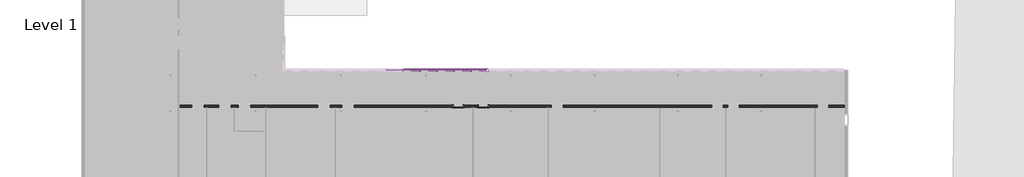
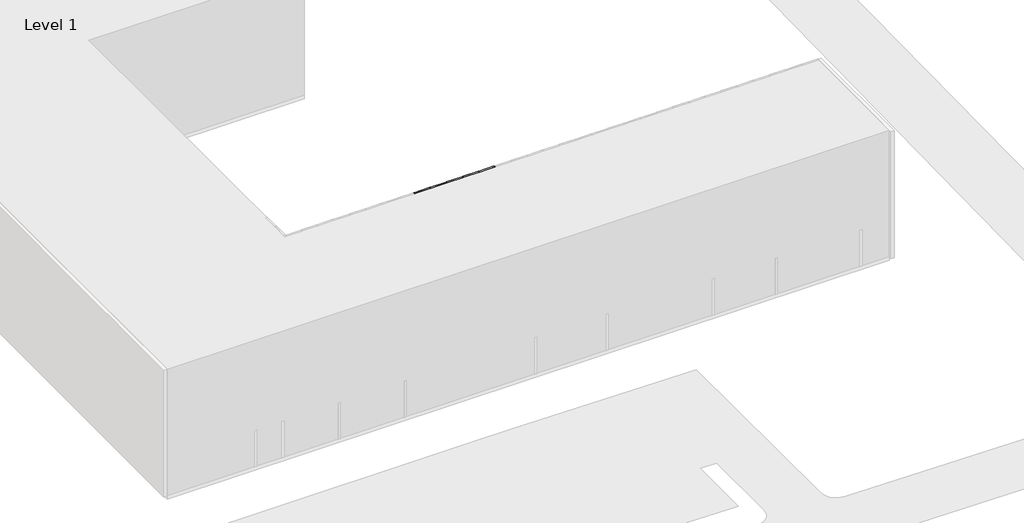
# One storey, part 5 of 18: 71 members, 36 plates, 2 doors, 1 wall.
"""IFC4 building model written with IfcOpenShell, lengths in millimetres."""

from ifc_helpers import new_model, si_unit, origin, place, context, project, spatial, faceted_brep, transform, mapped, element, save
from components import door_0915mm_x_2134mm_2aa27b83, door_0915mm_x_2134mm_3fa07aa3, rectangular_mullion_50mm_x_150mm_5f185edf, rectangular_mullion_50mm_x_150mm_e13fe9f0, rectangular_mullion_50mm_x_150mm_bbc1c4ea, rectangular_mullion_50mm_x_150mm_36202a7c, rectangular_mullion_50mm_x_150mm_84717ec5, system_panel_glazed_65478968, system_panel_glazed_4c130a31, system_panel_solid_368a6b70, system_panel_solid_ece33ae8

model = new_model("IFC4")

# Units and contexts
model_context = context("Model", 3, world=origin())
ifc_project = project(units=[si_unit("LENGTHUNIT", "METRE", prefix="MILLI")], contexts=[model_context])

# Site, building, storey
site = spatial("IfcSite", under=ifc_project)
building = spatial("IfcBuilding", under=site)
storey = spatial("IfcBuildingStorey", under=building, Name="Level 1", Elevation=0.0)

# Doors
placement = place(None, origin())
door_0915mm_x_2134mm_shape = door_0915mm_x_2134mm_2aa27b83(model_context)
element("IfcDoor", 1, ObjectType="m-doors-hm-f1-a : 0915mm x 2134mm", at=placement, inside=storey, context=model_context, shape_type="MappedRepresentation", body=[
    mapped(door_0915mm_x_2134mm_shape, transform((24961.1968037, -15479.7006057, 0.0), x_axis=(-1.0, 0.0, 0.0), y_axis=(0.0, -1.0, 0.0), z_axis=(0.0, 0.0, 1.0))),
])
door_0915mm_x_2134mm_2_shape = door_0915mm_x_2134mm_3fa07aa3(model_context)
element("IfcDoor", 2, ObjectType="m-doors-hm-f1-a : 0915mm x 2134mm", at=placement, inside=storey, context=model_context, shape_type="MappedRepresentation", body=[
    mapped(door_0915mm_x_2134mm_2_shape, transform((22761.1968037, -15479.7006057, 0.0), x_axis=(1.0, 0.0, 0.0), y_axis=(0.0, 1.0, 0.0), z_axis=(0.0, 0.0, 1.0))),
])

# Members
rectangular_mullion_50mm_x_150mm_shape = rectangular_mullion_50mm_x_150mm_5f185edf(model_context)
element("IfcMember", 3, ObjectType="Rectangular Mullion : 50mm x 150mm", at=placement, inside=storey, context=model_context, shape_type="MappedRepresentation", body=[
    mapped(rectangular_mullion_50mm_x_150mm_shape, transform((25382.1797146, -12132.3615692, 12400.0), x_axis=(0.0, 0.0, 1.0), y_axis=(0.0, 1.0, 0.0), z_axis=(-1.0, 0.0, 0.0))),
])
element("IfcMember", 4, ObjectType="Rectangular Mullion : 50mm x 150mm", at=placement, inside=storey, context=model_context, shape_type="MappedRepresentation", body=[
    mapped(rectangular_mullion_50mm_x_150mm_shape, transform((23889.7064944, -12132.3615692, 12400.0), x_axis=(0.0, 0.0, 1.0), y_axis=(0.0, 1.0, 0.0), z_axis=(-1.0, 0.0, 0.0))),
])
element("IfcMember", 5, ObjectType="Rectangular Mullion : 50mm x 150mm", at=placement, inside=storey, context=model_context, shape_type="MappedRepresentation", body=[
    mapped(rectangular_mullion_50mm_x_150mm_shape, transform((22397.2332743, -12132.3615692, 12400.0), x_axis=(0.0, 0.0, 1.0), y_axis=(0.0, 1.0, 0.0), z_axis=(-1.0, 0.0, 0.0))),
])
element("IfcMember", 6, ObjectType="Rectangular Mullion : 50mm x 150mm", at=placement, inside=storey, context=model_context, shape_type="MappedRepresentation", body=[
    mapped(rectangular_mullion_50mm_x_150mm_shape, transform((20904.7600541, -12132.3615692, 12400.0), x_axis=(0.0, 0.0, 1.0), y_axis=(0.0, 1.0, 0.0), z_axis=(-1.0, 0.0, 0.0))),
])
element("IfcMember", 7, ObjectType="Rectangular Mullion : 50mm x 150mm", at=placement, inside=storey, context=model_context, shape_type="MappedRepresentation", body=[
    mapped(rectangular_mullion_50mm_x_150mm_shape, transform((19412.2868339, -12132.3615692, 12400.0), x_axis=(0.0, 0.0, 1.0), y_axis=(0.0, 1.0, 0.0), z_axis=(-1.0, 0.0, 0.0))),
])
element("IfcMember", 8, ObjectType="Rectangular Mullion : 50mm x 150mm", at=placement, inside=storey, context=model_context, shape_type="MappedRepresentation", body=[
    mapped(rectangular_mullion_50mm_x_150mm_shape, transform((25332.1797146, -12132.3615692, 0.0), x_axis=(0.0, 0.0, -1.0), y_axis=(0.0, 1.0, 0.0), z_axis=(1.0, 0.0, 0.0))),
])
element("IfcMember", 9, ObjectType="Rectangular Mullion : 50mm x 150mm", at=placement, inside=storey, context=model_context, shape_type="MappedRepresentation", body=[
    mapped(rectangular_mullion_50mm_x_150mm_shape, transform((23839.7064944, -12132.3615692, 0.0), x_axis=(0.0, 0.0, -1.0), y_axis=(0.0, 1.0, 0.0), z_axis=(1.0, 0.0, 0.0))),
])
element("IfcMember", 10, ObjectType="Rectangular Mullion : 50mm x 150mm", at=placement, inside=storey, context=model_context, shape_type="MappedRepresentation", body=[
    mapped(rectangular_mullion_50mm_x_150mm_shape, transform((22347.2332743, -12132.3615692, 0.0), x_axis=(0.0, 0.0, -1.0), y_axis=(0.0, 1.0, 0.0), z_axis=(1.0, 0.0, 0.0))),
])
element("IfcMember", 11, ObjectType="Rectangular Mullion : 50mm x 150mm", at=placement, inside=storey, context=model_context, shape_type="MappedRepresentation", body=[
    mapped(rectangular_mullion_50mm_x_150mm_shape, transform((20854.7600541, -12132.3615692, 0.0), x_axis=(0.0, 0.0, -1.0), y_axis=(0.0, 1.0, 0.0), z_axis=(1.0, 0.0, 0.0))),
])
element("IfcMember", 12, ObjectType="Rectangular Mullion : 50mm x 150mm", at=placement, inside=storey, context=model_context, shape_type="MappedRepresentation", body=[
    mapped(rectangular_mullion_50mm_x_150mm_shape, transform((19362.2868339, -12132.3615692, 0.0), x_axis=(0.0, 0.0, -1.0), y_axis=(0.0, 1.0, 0.0), z_axis=(1.0, 0.0, 0.0))),
])
rectangular_mullion_50mm_x_150mm_2_shape = rectangular_mullion_50mm_x_150mm_e13fe9f0(model_context)
element("IfcMember", 13, ObjectType="Rectangular Mullion : 50mm x 150mm", at=placement, inside=storey, context=model_context, shape_type="MappedRepresentation", body=[
    mapped(rectangular_mullion_50mm_x_150mm_2_shape, transform((25382.1797146, -12132.3615692, 3800.0), x_axis=(0.0, 0.0, 1.0), y_axis=(0.0, 1.0, 0.0), z_axis=(-1.0, 0.0, 0.0))),
])
element("IfcMember", 14, ObjectType="Rectangular Mullion : 50mm x 150mm", at=placement, inside=storey, context=model_context, shape_type="MappedRepresentation", body=[
    mapped(rectangular_mullion_50mm_x_150mm_2_shape, transform((23889.7064944, -12132.3615692, 3800.0), x_axis=(0.0, 0.0, 1.0), y_axis=(0.0, 1.0, 0.0), z_axis=(-1.0, 0.0, 0.0))),
])
element("IfcMember", 15, ObjectType="Rectangular Mullion : 50mm x 150mm", at=placement, inside=storey, context=model_context, shape_type="MappedRepresentation", body=[
    mapped(rectangular_mullion_50mm_x_150mm_2_shape, transform((22397.2332743, -12132.3615692, 3800.0), x_axis=(0.0, 0.0, 1.0), y_axis=(0.0, 1.0, 0.0), z_axis=(-1.0, 0.0, 0.0))),
])
element("IfcMember", 16, ObjectType="Rectangular Mullion : 50mm x 150mm", at=placement, inside=storey, context=model_context, shape_type="MappedRepresentation", body=[
    mapped(rectangular_mullion_50mm_x_150mm_2_shape, transform((20904.7600541, -12132.3615692, 3800.0), x_axis=(0.0, 0.0, 1.0), y_axis=(0.0, 1.0, 0.0), z_axis=(-1.0, 0.0, 0.0))),
])
element("IfcMember", 17, ObjectType="Rectangular Mullion : 50mm x 150mm", at=placement, inside=storey, context=model_context, shape_type="MappedRepresentation", body=[
    mapped(rectangular_mullion_50mm_x_150mm_2_shape, transform((19412.2868339, -12132.3615692, 3800.0), x_axis=(0.0, 0.0, 1.0), y_axis=(0.0, 1.0, 0.0), z_axis=(-1.0, 0.0, 0.0))),
])
element("IfcMember", 18, ObjectType="Rectangular Mullion : 50mm x 150mm", at=placement, inside=storey, context=model_context, shape_type="MappedRepresentation", body=[
    mapped(rectangular_mullion_50mm_x_150mm_2_shape, transform((25382.1797146, -12132.3615692, 7600.0), x_axis=(0.0, 0.0, 1.0), y_axis=(0.0, 1.0, 0.0), z_axis=(-1.0, 0.0, 0.0))),
])
element("IfcMember", 19, ObjectType="Rectangular Mullion : 50mm x 150mm", at=placement, inside=storey, context=model_context, shape_type="MappedRepresentation", body=[
    mapped(rectangular_mullion_50mm_x_150mm_2_shape, transform((23889.7064944, -12132.3615692, 7600.0), x_axis=(0.0, 0.0, 1.0), y_axis=(0.0, 1.0, 0.0), z_axis=(-1.0, 0.0, 0.0))),
])
element("IfcMember", 20, ObjectType="Rectangular Mullion : 50mm x 150mm", at=placement, inside=storey, context=model_context, shape_type="MappedRepresentation", body=[
    mapped(rectangular_mullion_50mm_x_150mm_2_shape, transform((22397.2332743, -12132.3615692, 7600.0), x_axis=(0.0, 0.0, 1.0), y_axis=(0.0, 1.0, 0.0), z_axis=(-1.0, 0.0, 0.0))),
])
element("IfcMember", 21, ObjectType="Rectangular Mullion : 50mm x 150mm", at=placement, inside=storey, context=model_context, shape_type="MappedRepresentation", body=[
    mapped(rectangular_mullion_50mm_x_150mm_2_shape, transform((20904.7600541, -12132.3615692, 7600.0), x_axis=(0.0, 0.0, 1.0), y_axis=(0.0, 1.0, 0.0), z_axis=(-1.0, 0.0, 0.0))),
])
element("IfcMember", 22, ObjectType="Rectangular Mullion : 50mm x 150mm", at=placement, inside=storey, context=model_context, shape_type="MappedRepresentation", body=[
    mapped(rectangular_mullion_50mm_x_150mm_2_shape, transform((19412.2868339, -12132.3615692, 7600.0), x_axis=(0.0, 0.0, 1.0), y_axis=(0.0, 1.0, 0.0), z_axis=(-1.0, 0.0, 0.0))),
])
element("IfcMember", 23, ObjectType="Rectangular Mullion : 50mm x 150mm", at=placement, inside=storey, context=model_context, shape_type="MappedRepresentation", body=[
    mapped(rectangular_mullion_50mm_x_150mm_2_shape, transform((25382.1797146, -12132.3615692, 11400.0), x_axis=(0.0, 0.0, 1.0), y_axis=(0.0, 1.0, 0.0), z_axis=(-1.0, 0.0, 0.0))),
])
element("IfcMember", 24, ObjectType="Rectangular Mullion : 50mm x 150mm", at=placement, inside=storey, context=model_context, shape_type="MappedRepresentation", body=[
    mapped(rectangular_mullion_50mm_x_150mm_2_shape, transform((23889.7064944, -12132.3615692, 11400.0), x_axis=(0.0, 0.0, 1.0), y_axis=(0.0, 1.0, 0.0), z_axis=(-1.0, 0.0, 0.0))),
])
element("IfcMember", 25, ObjectType="Rectangular Mullion : 50mm x 150mm", at=placement, inside=storey, context=model_context, shape_type="MappedRepresentation", body=[
    mapped(rectangular_mullion_50mm_x_150mm_2_shape, transform((22397.2332743, -12132.3615692, 11400.0), x_axis=(0.0, 0.0, 1.0), y_axis=(0.0, 1.0, 0.0), z_axis=(-1.0, 0.0, 0.0))),
])
element("IfcMember", 26, ObjectType="Rectangular Mullion : 50mm x 150mm", at=placement, inside=storey, context=model_context, shape_type="MappedRepresentation", body=[
    mapped(rectangular_mullion_50mm_x_150mm_2_shape, transform((20904.7600541, -12132.3615692, 11400.0), x_axis=(0.0, 0.0, 1.0), y_axis=(0.0, 1.0, 0.0), z_axis=(-1.0, 0.0, 0.0))),
])
element("IfcMember", 27, ObjectType="Rectangular Mullion : 50mm x 150mm", at=placement, inside=storey, context=model_context, shape_type="MappedRepresentation", body=[
    mapped(rectangular_mullion_50mm_x_150mm_2_shape, transform((19412.2868339, -12132.3615692, 11400.0), x_axis=(0.0, 0.0, 1.0), y_axis=(0.0, 1.0, 0.0), z_axis=(-1.0, 0.0, 0.0))),
])
element("IfcMember", 28, ObjectType="Rectangular Mullion : 50mm x 150mm", at=placement, inside=storey, context=model_context, shape_type="MappedRepresentation", body=[
    mapped(rectangular_mullion_50mm_x_150mm_2_shape, transform((23889.7064944, -12132.3615692, 2440.0), x_axis=(0.0, 0.0, 1.0), y_axis=(0.0, 1.0, 0.0), z_axis=(-1.0, 0.0, 0.0))),
])
element("IfcMember", 29, ObjectType="Rectangular Mullion : 50mm x 150mm", at=placement, inside=storey, context=model_context, shape_type="MappedRepresentation", body=[
    mapped(rectangular_mullion_50mm_x_150mm_2_shape, transform((22397.2332743, -12132.3615692, 2440.0), x_axis=(0.0, 0.0, 1.0), y_axis=(0.0, 1.0, 0.0), z_axis=(-1.0, 0.0, 0.0))),
])
element("IfcMember", 30, ObjectType="Rectangular Mullion : 50mm x 150mm", at=placement, inside=storey, context=model_context, shape_type="MappedRepresentation", body=[
    mapped(rectangular_mullion_50mm_x_150mm_2_shape, transform((20904.7600541, -12132.3615692, 2440.0), x_axis=(0.0, 0.0, 1.0), y_axis=(0.0, 1.0, 0.0), z_axis=(-1.0, 0.0, 0.0))),
])
element("IfcMember", 31, ObjectType="Rectangular Mullion : 50mm x 150mm", at=placement, inside=storey, context=model_context, shape_type="MappedRepresentation", body=[
    mapped(rectangular_mullion_50mm_x_150mm_2_shape, transform((19412.2868339, -12132.3615692, 2440.0), x_axis=(0.0, 0.0, 1.0), y_axis=(0.0, 1.0, 0.0), z_axis=(-1.0, 0.0, 0.0))),
])
element("IfcMember", 32, ObjectType="Rectangular Mullion : 50mm x 150mm", at=placement, inside=storey, context=model_context, shape_type="MappedRepresentation", body=[
    mapped(rectangular_mullion_50mm_x_150mm_2_shape, transform((23889.7064944, -12132.3615692, 6240.0), x_axis=(0.0, 0.0, 1.0), y_axis=(0.0, 1.0, 0.0), z_axis=(-1.0, 0.0, 0.0))),
])
element("IfcMember", 33, ObjectType="Rectangular Mullion : 50mm x 150mm", at=placement, inside=storey, context=model_context, shape_type="MappedRepresentation", body=[
    mapped(rectangular_mullion_50mm_x_150mm_2_shape, transform((22397.2332743, -12132.3615692, 6240.0), x_axis=(0.0, 0.0, 1.0), y_axis=(0.0, 1.0, 0.0), z_axis=(-1.0, 0.0, 0.0))),
])
element("IfcMember", 34, ObjectType="Rectangular Mullion : 50mm x 150mm", at=placement, inside=storey, context=model_context, shape_type="MappedRepresentation", body=[
    mapped(rectangular_mullion_50mm_x_150mm_2_shape, transform((20904.7600541, -12132.3615692, 6240.0), x_axis=(0.0, 0.0, 1.0), y_axis=(0.0, 1.0, 0.0), z_axis=(-1.0, 0.0, 0.0))),
])
element("IfcMember", 35, ObjectType="Rectangular Mullion : 50mm x 150mm", at=placement, inside=storey, context=model_context, shape_type="MappedRepresentation", body=[
    mapped(rectangular_mullion_50mm_x_150mm_2_shape, transform((19412.2868339, -12132.3615692, 6240.0), x_axis=(0.0, 0.0, 1.0), y_axis=(0.0, 1.0, 0.0), z_axis=(-1.0, 0.0, 0.0))),
])
element("IfcMember", 36, ObjectType="Rectangular Mullion : 50mm x 150mm", at=placement, inside=storey, context=model_context, shape_type="MappedRepresentation", body=[
    mapped(rectangular_mullion_50mm_x_150mm_2_shape, transform((23889.7064944, -12132.3615692, 10040.0), x_axis=(0.0, 0.0, 1.0), y_axis=(0.0, 1.0, 0.0), z_axis=(-1.0, 0.0, 0.0))),
])
element("IfcMember", 37, ObjectType="Rectangular Mullion : 50mm x 150mm", at=placement, inside=storey, context=model_context, shape_type="MappedRepresentation", body=[
    mapped(rectangular_mullion_50mm_x_150mm_2_shape, transform((22397.2332743, -12132.3615692, 10040.0), x_axis=(0.0, 0.0, 1.0), y_axis=(0.0, 1.0, 0.0), z_axis=(-1.0, 0.0, 0.0))),
])
element("IfcMember", 38, ObjectType="Rectangular Mullion : 50mm x 150mm", at=placement, inside=storey, context=model_context, shape_type="MappedRepresentation", body=[
    mapped(rectangular_mullion_50mm_x_150mm_2_shape, transform((20904.7600541, -12132.3615692, 10040.0), x_axis=(0.0, 0.0, 1.0), y_axis=(0.0, 1.0, 0.0), z_axis=(-1.0, 0.0, 0.0))),
])
element("IfcMember", 39, ObjectType="Rectangular Mullion : 50mm x 150mm", at=placement, inside=storey, context=model_context, shape_type="MappedRepresentation", body=[
    mapped(rectangular_mullion_50mm_x_150mm_2_shape, transform((19412.2868339, -12132.3615692, 10040.0), x_axis=(0.0, 0.0, 1.0), y_axis=(0.0, 1.0, 0.0), z_axis=(-1.0, 0.0, 0.0))),
])
element("IfcMember", 40, ObjectType="Rectangular Mullion : 50mm x 150mm", at=placement, inside=storey, context=model_context, shape_type="MappedRepresentation", body=[
    mapped(rectangular_mullion_50mm_x_150mm_2_shape, transform((17919.8136138, -12132.3615692, 10040.0), x_axis=(0.0, 0.0, 1.0), y_axis=(0.0, 1.0, 0.0), z_axis=(-1.0, 0.0, 0.0))),
])
rectangular_mullion_50mm_x_150mm_3_shape = rectangular_mullion_50mm_x_150mm_bbc1c4ea(model_context)
element("IfcMember", 41, ObjectType="Rectangular Mullion : 50mm x 150mm", at=placement, inside=storey, context=model_context, shape_type="MappedRepresentation", body=[
    mapped(rectangular_mullion_50mm_x_150mm_3_shape, transform((25357.1797146, -12132.3615692, 11400.0), x_axis=(-1.0, 0.0, 0.0), y_axis=(0.0, 1.0, 0.0), z_axis=(0.0, 0.0, -1.0))),
])
element("IfcMember", 42, ObjectType="Rectangular Mullion : 50mm x 150mm", at=placement, inside=storey, context=model_context, shape_type="MappedRepresentation", body=[
    mapped(rectangular_mullion_50mm_x_150mm_3_shape, transform((23864.7064944, -12132.3615692, 11400.0), x_axis=(-1.0, 0.0, 0.0), y_axis=(0.0, 1.0, 0.0), z_axis=(0.0, 0.0, -1.0))),
])
element("IfcMember", 43, ObjectType="Rectangular Mullion : 50mm x 150mm", at=placement, inside=storey, context=model_context, shape_type="MappedRepresentation", body=[
    mapped(rectangular_mullion_50mm_x_150mm_3_shape, transform((22372.2332743, -12132.3615692, 11400.0), x_axis=(-1.0, 0.0, 0.0), y_axis=(0.0, 1.0, 0.0), z_axis=(0.0, 0.0, -1.0))),
])
element("IfcMember", 44, ObjectType="Rectangular Mullion : 50mm x 150mm", at=placement, inside=storey, context=model_context, shape_type="MappedRepresentation", body=[
    mapped(rectangular_mullion_50mm_x_150mm_3_shape, transform((20879.7600541, -12132.3615692, 11400.0), x_axis=(-1.0, 0.0, 0.0), y_axis=(0.0, 1.0, 0.0), z_axis=(0.0, 0.0, -1.0))),
])
element("IfcMember", 45, ObjectType="Rectangular Mullion : 50mm x 150mm", at=placement, inside=storey, context=model_context, shape_type="MappedRepresentation", body=[
    mapped(rectangular_mullion_50mm_x_150mm_3_shape, transform((19387.2868339, -12132.3615692, 11400.0), x_axis=(-1.0, 0.0, 0.0), y_axis=(0.0, 1.0, 0.0), z_axis=(0.0, 0.0, -1.0))),
])
rectangular_mullion_50mm_x_150mm_4_shape = rectangular_mullion_50mm_x_150mm_36202a7c(model_context)
element("IfcMember", 46, ObjectType="Rectangular Mullion : 50mm x 150mm", at=placement, inside=storey, context=model_context, shape_type="MappedRepresentation", body=[
    mapped(rectangular_mullion_50mm_x_150mm_4_shape, transform((25357.1797146, -12132.3615692, 0.0), x_axis=(-1.0, 0.0, 0.0), y_axis=(0.0, 1.0, 0.0), z_axis=(0.0, 0.0, -1.0))),
])
element("IfcMember", 47, ObjectType="Rectangular Mullion : 50mm x 150mm", at=placement, inside=storey, context=model_context, shape_type="MappedRepresentation", body=[
    mapped(rectangular_mullion_50mm_x_150mm_4_shape, transform((23864.7064944, -12132.3615692, 0.0), x_axis=(-1.0, 0.0, 0.0), y_axis=(0.0, 1.0, 0.0), z_axis=(0.0, 0.0, -1.0))),
])
element("IfcMember", 48, ObjectType="Rectangular Mullion : 50mm x 150mm", at=placement, inside=storey, context=model_context, shape_type="MappedRepresentation", body=[
    mapped(rectangular_mullion_50mm_x_150mm_4_shape, transform((22372.2332743, -12132.3615692, 0.0), x_axis=(-1.0, 0.0, 0.0), y_axis=(0.0, 1.0, 0.0), z_axis=(0.0, 0.0, -1.0))),
])
element("IfcMember", 49, ObjectType="Rectangular Mullion : 50mm x 150mm", at=placement, inside=storey, context=model_context, shape_type="MappedRepresentation", body=[
    mapped(rectangular_mullion_50mm_x_150mm_4_shape, transform((20879.7600541, -12132.3615692, 0.0), x_axis=(-1.0, 0.0, 0.0), y_axis=(0.0, 1.0, 0.0), z_axis=(0.0, 0.0, -1.0))),
])
element("IfcMember", 50, ObjectType="Rectangular Mullion : 50mm x 150mm", at=placement, inside=storey, context=model_context, shape_type="MappedRepresentation", body=[
    mapped(rectangular_mullion_50mm_x_150mm_4_shape, transform((19387.2868339, -12132.3615692, 0.0), x_axis=(-1.0, 0.0, 0.0), y_axis=(0.0, 1.0, 0.0), z_axis=(0.0, 0.0, -1.0))),
])
rectangular_mullion_50mm_x_150mm_5_shape = rectangular_mullion_50mm_x_150mm_84717ec5(model_context)
element("IfcMember", 51, ObjectType="Rectangular Mullion : 50mm x 150mm", at=placement, inside=storey, context=model_context, shape_type="MappedRepresentation", body=[
    mapped(rectangular_mullion_50mm_x_150mm_5_shape, transform((23864.7064944, -12132.3615692, 2440.0), x_axis=(-1.0, 0.0, 0.0), y_axis=(0.0, 1.0, 0.0), z_axis=(0.0, 0.0, -1.0))),
])
element("IfcMember", 52, ObjectType="Rectangular Mullion : 50mm x 150mm", at=placement, inside=storey, context=model_context, shape_type="MappedRepresentation", body=[
    mapped(rectangular_mullion_50mm_x_150mm_5_shape, transform((22372.2332743, -12132.3615692, 2440.0), x_axis=(-1.0, 0.0, 0.0), y_axis=(0.0, 1.0, 0.0), z_axis=(0.0, 0.0, -1.0))),
])
element("IfcMember", 53, ObjectType="Rectangular Mullion : 50mm x 150mm", at=placement, inside=storey, context=model_context, shape_type="MappedRepresentation", body=[
    mapped(rectangular_mullion_50mm_x_150mm_5_shape, transform((20879.7600541, -12132.3615692, 2440.0), x_axis=(-1.0, 0.0, 0.0), y_axis=(0.0, 1.0, 0.0), z_axis=(0.0, 0.0, -1.0))),
])
element("IfcMember", 54, ObjectType="Rectangular Mullion : 50mm x 150mm", at=placement, inside=storey, context=model_context, shape_type="MappedRepresentation", body=[
    mapped(rectangular_mullion_50mm_x_150mm_5_shape, transform((19387.2868339, -12132.3615692, 2440.0), x_axis=(-1.0, 0.0, 0.0), y_axis=(0.0, 1.0, 0.0), z_axis=(0.0, 0.0, -1.0))),
])
element("IfcMember", 55, ObjectType="Rectangular Mullion : 50mm x 150mm", at=placement, inside=storey, context=model_context, shape_type="MappedRepresentation", body=[
    mapped(rectangular_mullion_50mm_x_150mm_5_shape, transform((23864.7064944, -12132.3615692, 6240.0), x_axis=(-1.0, 0.0, 0.0), y_axis=(0.0, 1.0, 0.0), z_axis=(0.0, 0.0, -1.0))),
])
element("IfcMember", 56, ObjectType="Rectangular Mullion : 50mm x 150mm", at=placement, inside=storey, context=model_context, shape_type="MappedRepresentation", body=[
    mapped(rectangular_mullion_50mm_x_150mm_5_shape, transform((22372.2332743, -12132.3615692, 6240.0), x_axis=(-1.0, 0.0, 0.0), y_axis=(0.0, 1.0, 0.0), z_axis=(0.0, 0.0, -1.0))),
])
element("IfcMember", 57, ObjectType="Rectangular Mullion : 50mm x 150mm", at=placement, inside=storey, context=model_context, shape_type="MappedRepresentation", body=[
    mapped(rectangular_mullion_50mm_x_150mm_5_shape, transform((20879.7600541, -12132.3615692, 6240.0), x_axis=(-1.0, 0.0, 0.0), y_axis=(0.0, 1.0, 0.0), z_axis=(0.0, 0.0, -1.0))),
])
element("IfcMember", 58, ObjectType="Rectangular Mullion : 50mm x 150mm", at=placement, inside=storey, context=model_context, shape_type="MappedRepresentation", body=[
    mapped(rectangular_mullion_50mm_x_150mm_5_shape, transform((19387.2868339, -12132.3615692, 6240.0), x_axis=(-1.0, 0.0, 0.0), y_axis=(0.0, 1.0, 0.0), z_axis=(0.0, 0.0, -1.0))),
])
element("IfcMember", 59, ObjectType="Rectangular Mullion : 50mm x 150mm", at=placement, inside=storey, context=model_context, shape_type="MappedRepresentation", body=[
    mapped(rectangular_mullion_50mm_x_150mm_5_shape, transform((23864.7064944, -12132.3615692, 10040.0), x_axis=(-1.0, 0.0, 0.0), y_axis=(0.0, 1.0, 0.0), z_axis=(0.0, 0.0, -1.0))),
])
element("IfcMember", 60, ObjectType="Rectangular Mullion : 50mm x 150mm", at=placement, inside=storey, context=model_context, shape_type="MappedRepresentation", body=[
    mapped(rectangular_mullion_50mm_x_150mm_5_shape, transform((22372.2332743, -12132.3615692, 10040.0), x_axis=(-1.0, 0.0, 0.0), y_axis=(0.0, 1.0, 0.0), z_axis=(0.0, 0.0, -1.0))),
])
element("IfcMember", 61, ObjectType="Rectangular Mullion : 50mm x 150mm", at=placement, inside=storey, context=model_context, shape_type="MappedRepresentation", body=[
    mapped(rectangular_mullion_50mm_x_150mm_5_shape, transform((20879.7600541, -12132.3615692, 10040.0), x_axis=(-1.0, 0.0, 0.0), y_axis=(0.0, 1.0, 0.0), z_axis=(0.0, 0.0, -1.0))),
])
element("IfcMember", 62, ObjectType="Rectangular Mullion : 50mm x 150mm", at=placement, inside=storey, context=model_context, shape_type="MappedRepresentation", body=[
    mapped(rectangular_mullion_50mm_x_150mm_5_shape, transform((19387.2868339, -12132.3615692, 10040.0), x_axis=(-1.0, 0.0, 0.0), y_axis=(0.0, 1.0, 0.0), z_axis=(0.0, 0.0, -1.0))),
])
element("IfcMember", 63, ObjectType="Rectangular Mullion : 50mm x 150mm", at=placement, inside=storey, context=model_context, shape_type="MappedRepresentation", body=[
    mapped(rectangular_mullion_50mm_x_150mm_5_shape, transform((17894.8136138, -12132.3615692, 10040.0), x_axis=(-1.0, 0.0, 0.0), y_axis=(0.0, 1.0, 0.0), z_axis=(0.0, 0.0, -1.0))),
])
element("IfcMember", 64, ObjectType="Rectangular Mullion : 50mm x 150mm", at=placement, inside=storey, context=model_context, shape_type="MappedRepresentation", body=[
    mapped(rectangular_mullion_50mm_x_150mm_4_shape, transform((25357.1797146, -12132.3615692, 3800.0), x_axis=(-1.0, 0.0, 0.0), y_axis=(0.0, 1.0, 0.0), z_axis=(0.0, 0.0, -1.0))),
])
element("IfcMember", 65, ObjectType="Rectangular Mullion : 50mm x 150mm", at=placement, inside=storey, context=model_context, shape_type="MappedRepresentation", body=[
    mapped(rectangular_mullion_50mm_x_150mm_4_shape, transform((23864.7064944, -12132.3615692, 3800.0), x_axis=(-1.0, 0.0, 0.0), y_axis=(0.0, 1.0, 0.0), z_axis=(0.0, 0.0, -1.0))),
])
element("IfcMember", 66, ObjectType="Rectangular Mullion : 50mm x 150mm", at=placement, inside=storey, context=model_context, shape_type="MappedRepresentation", body=[
    mapped(rectangular_mullion_50mm_x_150mm_4_shape, transform((22372.2332743, -12132.3615692, 3800.0), x_axis=(-1.0, 0.0, 0.0), y_axis=(0.0, 1.0, 0.0), z_axis=(0.0, 0.0, -1.0))),
])
element("IfcMember", 67, ObjectType="Rectangular Mullion : 50mm x 150mm", at=placement, inside=storey, context=model_context, shape_type="MappedRepresentation", body=[
    mapped(rectangular_mullion_50mm_x_150mm_4_shape, transform((20879.7600541, -12132.3615692, 3800.0), x_axis=(-1.0, 0.0, 0.0), y_axis=(0.0, 1.0, 0.0), z_axis=(0.0, 0.0, -1.0))),
])
element("IfcMember", 68, ObjectType="Rectangular Mullion : 50mm x 150mm", at=placement, inside=storey, context=model_context, shape_type="MappedRepresentation", body=[
    mapped(rectangular_mullion_50mm_x_150mm_4_shape, transform((19387.2868339, -12132.3615692, 3800.0), x_axis=(-1.0, 0.0, 0.0), y_axis=(0.0, 1.0, 0.0), z_axis=(0.0, 0.0, -1.0))),
])
element("IfcMember", 69, ObjectType="Rectangular Mullion : 50mm x 150mm", at=placement, inside=storey, context=model_context, shape_type="MappedRepresentation", body=[
    mapped(rectangular_mullion_50mm_x_150mm_4_shape, transform((25357.1797146, -12132.3615692, 7600.0), x_axis=(-1.0, 0.0, 0.0), y_axis=(0.0, 1.0, 0.0), z_axis=(0.0, 0.0, -1.0))),
])
element("IfcMember", 70, ObjectType="Rectangular Mullion : 50mm x 150mm", at=placement, inside=storey, context=model_context, shape_type="MappedRepresentation", body=[
    mapped(rectangular_mullion_50mm_x_150mm_4_shape, transform((23864.7064944, -12132.3615692, 7600.0), x_axis=(-1.0, 0.0, 0.0), y_axis=(0.0, 1.0, 0.0), z_axis=(0.0, 0.0, -1.0))),
])
element("IfcMember", 71, ObjectType="Rectangular Mullion : 50mm x 150mm", at=placement, inside=storey, context=model_context, shape_type="MappedRepresentation", body=[
    mapped(rectangular_mullion_50mm_x_150mm_4_shape, transform((22372.2332743, -12132.3615692, 7600.0), x_axis=(-1.0, 0.0, 0.0), y_axis=(0.0, 1.0, 0.0), z_axis=(0.0, 0.0, -1.0))),
])
element("IfcMember", 72, ObjectType="Rectangular Mullion : 50mm x 150mm", at=placement, inside=storey, context=model_context, shape_type="MappedRepresentation", body=[
    mapped(rectangular_mullion_50mm_x_150mm_4_shape, transform((20879.7600541, -12132.3615692, 7600.0), x_axis=(-1.0, 0.0, 0.0), y_axis=(0.0, 1.0, 0.0), z_axis=(0.0, 0.0, -1.0))),
])
element("IfcMember", 73, ObjectType="Rectangular Mullion : 50mm x 150mm", at=placement, inside=storey, context=model_context, shape_type="MappedRepresentation", body=[
    mapped(rectangular_mullion_50mm_x_150mm_4_shape, transform((19387.2868339, -12132.3615692, 7600.0), x_axis=(-1.0, 0.0, 0.0), y_axis=(0.0, 1.0, 0.0), z_axis=(0.0, 0.0, -1.0))),
])

# Plates
system_panel_glazed_shape = system_panel_glazed_65478968(model_context)
element("IfcPlate", 74, ObjectType="System Panel : Glazed", at=placement, inside=storey, context=model_context, shape_type="MappedRepresentation", body=[
    mapped(system_panel_glazed_shape, transform((24610.9431045, -12132.3615692, 50.0), x_axis=(-1.0, 0.0, 0.0), y_axis=(0.0, -1.0, 0.0), z_axis=(0.0, 0.0, 1.0))),
])
element("IfcPlate", 75, ObjectType="System Panel : Glazed", at=placement, inside=storey, context=model_context, shape_type="MappedRepresentation", body=[
    mapped(system_panel_glazed_shape, transform((23118.4698843, -12132.3615692, 50.0), x_axis=(-1.0, 0.0, 0.0), y_axis=(0.0, -1.0, 0.0), z_axis=(0.0, 0.0, 1.0))),
])
element("IfcPlate", 76, ObjectType="System Panel : Glazed", at=placement, inside=storey, context=model_context, shape_type="MappedRepresentation", body=[
    mapped(system_panel_glazed_shape, transform((21625.9966642, -12132.3615692, 50.0), x_axis=(-1.0, 0.0, 0.0), y_axis=(0.0, -1.0, 0.0), z_axis=(0.0, 0.0, 1.0))),
])
element("IfcPlate", 77, ObjectType="System Panel : Glazed", at=placement, inside=storey, context=model_context, shape_type="MappedRepresentation", body=[
    mapped(system_panel_glazed_shape, transform((20133.523444, -12132.3615692, 50.0), x_axis=(-1.0, 0.0, 0.0), y_axis=(0.0, -1.0, 0.0), z_axis=(0.0, 0.0, 1.0))),
])
element("IfcPlate", 78, ObjectType="System Panel : Glazed", at=placement, inside=storey, context=model_context, shape_type="MappedRepresentation", body=[
    mapped(system_panel_glazed_shape, transform((18641.0502239, -12132.3615692, 50.0), x_axis=(-1.0, 0.0, 0.0), y_axis=(0.0, -1.0, 0.0), z_axis=(0.0, 0.0, 1.0))),
])
system_panel_glazed_2_shape = system_panel_glazed_4c130a31(model_context)
element("IfcPlate", 79, ObjectType="System Panel : Glazed", at=placement, inside=storey, context=model_context, shape_type="MappedRepresentation", body=[
    mapped(system_panel_glazed_2_shape, transform((24610.9431045, -12132.3615692, 3825.0), x_axis=(-1.0, 0.0, 0.0), y_axis=(0.0, -1.0, 0.0), z_axis=(0.0, 0.0, 1.0))),
])
element("IfcPlate", 80, ObjectType="System Panel : Glazed", at=placement, inside=storey, context=model_context, shape_type="MappedRepresentation", body=[
    mapped(system_panel_glazed_2_shape, transform((23118.4698843, -12132.3615692, 3825.0), x_axis=(-1.0, 0.0, 0.0), y_axis=(0.0, -1.0, 0.0), z_axis=(0.0, 0.0, 1.0))),
])
element("IfcPlate", 81, ObjectType="System Panel : Glazed", at=placement, inside=storey, context=model_context, shape_type="MappedRepresentation", body=[
    mapped(system_panel_glazed_2_shape, transform((21625.9966642, -12132.3615692, 3825.0), x_axis=(-1.0, 0.0, 0.0), y_axis=(0.0, -1.0, 0.0), z_axis=(0.0, 0.0, 1.0))),
])
element("IfcPlate", 82, ObjectType="System Panel : Glazed", at=placement, inside=storey, context=model_context, shape_type="MappedRepresentation", body=[
    mapped(system_panel_glazed_2_shape, transform((20133.523444, -12132.3615692, 3825.0), x_axis=(-1.0, 0.0, 0.0), y_axis=(0.0, -1.0, 0.0), z_axis=(0.0, 0.0, 1.0))),
])
element("IfcPlate", 83, ObjectType="System Panel : Glazed", at=placement, inside=storey, context=model_context, shape_type="MappedRepresentation", body=[
    mapped(system_panel_glazed_2_shape, transform((18641.0502239, -12132.3615692, 3825.0), x_axis=(-1.0, 0.0, 0.0), y_axis=(0.0, -1.0, 0.0), z_axis=(0.0, 0.0, 1.0))),
])
element("IfcPlate", 84, ObjectType="System Panel : Glazed", at=placement, inside=storey, context=model_context, shape_type="MappedRepresentation", body=[
    mapped(system_panel_glazed_2_shape, transform((24610.9431045, -12132.3615692, 7625.0), x_axis=(-1.0, 0.0, 0.0), y_axis=(0.0, -1.0, 0.0), z_axis=(0.0, 0.0, 1.0))),
])
element("IfcPlate", 85, ObjectType="System Panel : Glazed", at=placement, inside=storey, context=model_context, shape_type="MappedRepresentation", body=[
    mapped(system_panel_glazed_2_shape, transform((23118.4698843, -12132.3615692, 7625.0), x_axis=(-1.0, 0.0, 0.0), y_axis=(0.0, -1.0, 0.0), z_axis=(0.0, 0.0, 1.0))),
])
element("IfcPlate", 86, ObjectType="System Panel : Glazed", at=placement, inside=storey, context=model_context, shape_type="MappedRepresentation", body=[
    mapped(system_panel_glazed_2_shape, transform((21625.9966642, -12132.3615692, 7625.0), x_axis=(-1.0, 0.0, 0.0), y_axis=(0.0, -1.0, 0.0), z_axis=(0.0, 0.0, 1.0))),
])
element("IfcPlate", 87, ObjectType="System Panel : Glazed", at=placement, inside=storey, context=model_context, shape_type="MappedRepresentation", body=[
    mapped(system_panel_glazed_2_shape, transform((20133.523444, -12132.3615692, 7625.0), x_axis=(-1.0, 0.0, 0.0), y_axis=(0.0, -1.0, 0.0), z_axis=(0.0, 0.0, 1.0))),
])
element("IfcPlate", 88, ObjectType="System Panel : Glazed", at=placement, inside=storey, context=model_context, shape_type="MappedRepresentation", body=[
    mapped(system_panel_glazed_2_shape, transform((18641.0502239, -12132.3615692, 7625.0), x_axis=(-1.0, 0.0, 0.0), y_axis=(0.0, -1.0, 0.0), z_axis=(0.0, 0.0, 1.0))),
])
system_panel_solid_shape = system_panel_solid_368a6b70(model_context)
element("IfcPlate", 89, ObjectType="System Panel : Solid", at=placement, inside=storey, context=model_context, shape_type="MappedRepresentation", body=[
    mapped(system_panel_solid_shape, transform((24610.9431045, -12132.3615692, 11425.0), x_axis=(-1.0, 0.0, 0.0), y_axis=(0.0, -1.0, 0.0), z_axis=(0.0, 0.0, 1.0))),
])
element("IfcPlate", 90, ObjectType="System Panel : Solid", at=placement, inside=storey, context=model_context, shape_type="MappedRepresentation", body=[
    mapped(system_panel_solid_shape, transform((23118.4698843, -12132.3615692, 11425.0), x_axis=(-1.0, 0.0, 0.0), y_axis=(0.0, -1.0, 0.0), z_axis=(0.0, 0.0, 1.0))),
])
element("IfcPlate", 91, ObjectType="System Panel : Solid", at=placement, inside=storey, context=model_context, shape_type="MappedRepresentation", body=[
    mapped(system_panel_solid_shape, transform((21625.9966642, -12132.3615692, 11425.0), x_axis=(-1.0, 0.0, 0.0), y_axis=(0.0, -1.0, 0.0), z_axis=(0.0, 0.0, 1.0))),
])
element("IfcPlate", 92, ObjectType="System Panel : Solid", at=placement, inside=storey, context=model_context, shape_type="MappedRepresentation", body=[
    mapped(system_panel_solid_shape, transform((20133.523444, -12132.3615692, 11425.0), x_axis=(-1.0, 0.0, 0.0), y_axis=(0.0, -1.0, 0.0), z_axis=(0.0, 0.0, 1.0))),
])
element("IfcPlate", 93, ObjectType="System Panel : Solid", at=placement, inside=storey, context=model_context, shape_type="MappedRepresentation", body=[
    mapped(system_panel_solid_shape, transform((18641.0502239, -12132.3615692, 11425.0), x_axis=(-1.0, 0.0, 0.0), y_axis=(0.0, -1.0, 0.0), z_axis=(0.0, 0.0, 1.0))),
])
system_panel_solid_2_shape = system_panel_solid_ece33ae8(model_context)
element("IfcPlate", 94, ObjectType="System Panel : Solid", at=placement, inside=storey, context=model_context, shape_type="MappedRepresentation", body=[
    mapped(system_panel_solid_2_shape, transform((24610.9431045, -12132.3615692, 2465.0), x_axis=(-1.0, 0.0, 0.0), y_axis=(0.0, -1.0, 0.0), z_axis=(0.0, 0.0, 1.0))),
])
element("IfcPlate", 95, ObjectType="System Panel : Solid", at=placement, inside=storey, context=model_context, shape_type="MappedRepresentation", body=[
    mapped(system_panel_solid_2_shape, transform((23118.4698843, -12132.3615692, 2465.0), x_axis=(-1.0, 0.0, 0.0), y_axis=(0.0, -1.0, 0.0), z_axis=(0.0, 0.0, 1.0))),
])
element("IfcPlate", 96, ObjectType="System Panel : Solid", at=placement, inside=storey, context=model_context, shape_type="MappedRepresentation", body=[
    mapped(system_panel_solid_2_shape, transform((21625.9966642, -12132.3615692, 2465.0), x_axis=(-1.0, 0.0, 0.0), y_axis=(0.0, -1.0, 0.0), z_axis=(0.0, 0.0, 1.0))),
])
element("IfcPlate", 97, ObjectType="System Panel : Solid", at=placement, inside=storey, context=model_context, shape_type="MappedRepresentation", body=[
    mapped(system_panel_solid_2_shape, transform((20133.523444, -12132.3615692, 2465.0), x_axis=(-1.0, 0.0, 0.0), y_axis=(0.0, -1.0, 0.0), z_axis=(0.0, 0.0, 1.0))),
])
element("IfcPlate", 98, ObjectType="System Panel : Solid", at=placement, inside=storey, context=model_context, shape_type="MappedRepresentation", body=[
    mapped(system_panel_solid_2_shape, transform((18641.0502239, -12132.3615692, 2465.0), x_axis=(-1.0, 0.0, 0.0), y_axis=(0.0, -1.0, 0.0), z_axis=(0.0, 0.0, 1.0))),
])
element("IfcPlate", 99, ObjectType="System Panel : Solid", at=placement, inside=storey, context=model_context, shape_type="MappedRepresentation", body=[
    mapped(system_panel_solid_2_shape, transform((24610.9431045, -12132.3615692, 6265.0), x_axis=(-1.0, 0.0, 0.0), y_axis=(0.0, -1.0, 0.0), z_axis=(0.0, 0.0, 1.0))),
])
element("IfcPlate", 100, ObjectType="System Panel : Solid", at=placement, inside=storey, context=model_context, shape_type="MappedRepresentation", body=[
    mapped(system_panel_solid_2_shape, transform((23118.4698843, -12132.3615692, 6265.0), x_axis=(-1.0, 0.0, 0.0), y_axis=(0.0, -1.0, 0.0), z_axis=(0.0, 0.0, 1.0))),
])
element("IfcPlate", 101, ObjectType="System Panel : Solid", at=placement, inside=storey, context=model_context, shape_type="MappedRepresentation", body=[
    mapped(system_panel_solid_2_shape, transform((21625.9966642, -12132.3615692, 6265.0), x_axis=(-1.0, 0.0, 0.0), y_axis=(0.0, -1.0, 0.0), z_axis=(0.0, 0.0, 1.0))),
])
element("IfcPlate", 102, ObjectType="System Panel : Solid", at=placement, inside=storey, context=model_context, shape_type="MappedRepresentation", body=[
    mapped(system_panel_solid_2_shape, transform((20133.523444, -12132.3615692, 6265.0), x_axis=(-1.0, 0.0, 0.0), y_axis=(0.0, -1.0, 0.0), z_axis=(0.0, 0.0, 1.0))),
])
element("IfcPlate", 103, ObjectType="System Panel : Solid", at=placement, inside=storey, context=model_context, shape_type="MappedRepresentation", body=[
    mapped(system_panel_solid_2_shape, transform((18641.0502239, -12132.3615692, 6265.0), x_axis=(-1.0, 0.0, 0.0), y_axis=(0.0, -1.0, 0.0), z_axis=(0.0, 0.0, 1.0))),
])
element("IfcPlate", 104, ObjectType="System Panel : Solid", at=placement, inside=storey, context=model_context, shape_type="MappedRepresentation", body=[
    mapped(system_panel_solid_2_shape, transform((24610.9431045, -12132.3615692, 10065.0), x_axis=(-1.0, 0.0, 0.0), y_axis=(0.0, -1.0, 0.0), z_axis=(0.0, 0.0, 1.0))),
])
element("IfcPlate", 105, ObjectType="System Panel : Solid", at=placement, inside=storey, context=model_context, shape_type="MappedRepresentation", body=[
    mapped(system_panel_solid_2_shape, transform((23118.4698843, -12132.3615692, 10065.0), x_axis=(-1.0, 0.0, 0.0), y_axis=(0.0, -1.0, 0.0), z_axis=(0.0, 0.0, 1.0))),
])
element("IfcPlate", 106, ObjectType="System Panel : Solid", at=placement, inside=storey, context=model_context, shape_type="MappedRepresentation", body=[
    mapped(system_panel_solid_2_shape, transform((21625.9966642, -12132.3615692, 10065.0), x_axis=(-1.0, 0.0, 0.0), y_axis=(0.0, -1.0, 0.0), z_axis=(0.0, 0.0, 1.0))),
])
element("IfcPlate", 107, ObjectType="System Panel : Solid", at=placement, inside=storey, context=model_context, shape_type="MappedRepresentation", body=[
    mapped(system_panel_solid_2_shape, transform((20133.523444, -12132.3615692, 10065.0), x_axis=(-1.0, 0.0, 0.0), y_axis=(0.0, -1.0, 0.0), z_axis=(0.0, 0.0, 1.0))),
])
element("IfcPlate", 108, ObjectType="System Panel : Solid", at=placement, inside=storey, context=model_context, shape_type="MappedRepresentation", body=[
    mapped(system_panel_solid_2_shape, transform((18641.0502239, -12132.3615692, 10065.0), x_axis=(-1.0, 0.0, 0.0), y_axis=(0.0, -1.0, 0.0), z_axis=(0.0, 0.0, 1.0))),
])
element("IfcPlate", 109, ObjectType="System Panel : Solid", at=placement, inside=storey, context=model_context, shape_type="MappedRepresentation", body=[
    mapped(system_panel_solid_2_shape, transform((17148.5770037, -12132.3615692, 10065.0), x_axis=(-1.0, 0.0, 0.0), y_axis=(0.0, -1.0, 0.0), z_axis=(0.0, 0.0, 1.0))),
])

# Wall
element("IfcWall", 110, ObjectType="P6 184mm - 1HR - ULC #W453", at=placement, inside=storey, context=model_context, shape_type="Brep", body=[
    faceted_brep([(56699.1173382, -15396.7006057, 3550.0), (54199.1173382, -15396.7006057, 3550.0), (54009.1173382, -15396.7006057, 3550.0), (46353.1968037, -15396.7006057, 3550.0), (46169.1968037, -15396.7006057, 3550.0), (40553.1968037, -15396.7006057, 3550.0), (40369.1968037, -15396.7006057, 3550.0), (30753.1968037, -15396.7006057, 3550.0), (30569.1968037, -15396.7006057, 3550.0), (24153.1968037, -15396.7006057, 3550.0), (23969.1968037, -15396.7006057, 3550.0), (12053.1968037, -15396.7006057, 3550.0), (11869.1968037, -15396.7006057, 3550.0), (5953.1968037, -15396.7006057, 3550.0), (5769.1968037, -15396.7006057, 3550.0), (3176.1613365, -15396.7006057, 3550.0), (2992.1613365, -15396.7006057, 3550.0), (771.1613365, -15396.7006057, 3550.0), (581.1613365, -15396.7006057, 3550.0), (-1728.8386635, -15396.7006057, 3550.0), (-1728.8386635, -15396.7006057, 0.0), (-631.3386635, -15396.7006057, 0.0), (-631.3386635, -15396.7006057, 2184.0), (383.6613365, -15396.7006057, 2184.0), (383.6613365, -15396.7006057, 0.0), (581.1613365, -15396.7006057, 0.0), (771.1613365, -15396.7006057, 0.0), (1776.6613365, -15396.7006057, 0.0), (1776.6613365, -15396.7006057, 2184.0), (2791.6613365, -15396.7006057, 2184.0), (2791.6613365, -15396.7006057, 0.0), (2992.1613365, -15396.7006057, 0.0), (3176.1613365, -15396.7006057, 0.0), (3476.6613365, -15396.7006057, 0.0), (3476.6613365, -15396.7006057, 2184.0), (4491.6613365, -15396.7006057, 2184.0), (4491.6613365, -15396.7006057, 0.0), (5769.1968037, -15396.7006057, 0.0), (5953.1968037, -15396.7006057, 0.0), (10453.6968037, -15396.7006057, 0.0), (10453.6968037, -15396.7006057, 2184.0), (11468.6968037, -15396.7006057, 2184.0), (11468.6968037, -15396.7006057, 0.0), (11869.1968037, -15396.7006057, 0.0), (12053.1968037, -15396.7006057, 0.0), (12553.6968037, -15396.7006057, 0.0), (12553.6968037, -15396.7006057, 2184.0), (13568.6968037, -15396.7006057, 2184.0), (13568.6968037, -15396.7006057, 0.0), (22253.6968037, -15396.7006057, 0.0), (22253.6968037, -15396.7006057, 2184.0), (23268.6968037, -15396.7006057, 2184.0), (23268.6968037, -15396.7006057, 0.0), (23969.1968037, -15396.7006057, 0.0), (24153.1968037, -15396.7006057, 0.0), (24453.6968037, -15396.7006057, 0.0), (24453.6968037, -15396.7006057, 2184.0), (25468.6968037, -15396.7006057, 2184.0), (25468.6968037, -15396.7006057, 0.0), (30569.1968037, -15396.7006057, 0.0), (30753.1968037, -15396.7006057, 0.0), (30953.6968037, -15396.7006057, 0.0), (30953.6968037, -15396.7006057, 2184.0), (31968.6968037, -15396.7006057, 2184.0), (31968.6968037, -15396.7006057, 0.0), (40369.1968037, -15396.7006057, 0.0), (40553.1968037, -15396.7006057, 0.0), (45053.6968037, -15396.7006057, 0.0), (45053.6968037, -15396.7006057, 2184.0), (46068.6968037, -15396.7006057, 2184.0), (46068.6968037, -15396.7006057, 0.0), (46169.1968037, -15396.7006057, 0.0), (46353.1968037, -15396.7006057, 0.0), (46453.6968037, -15396.7006057, 0.0), (46453.6968037, -15396.7006057, 2184.0), (47468.6968037, -15396.7006057, 2184.0), (47468.6968037, -15396.7006057, 0.0), (54009.1173382, -15396.7006057, 0.0), (54199.1173382, -15396.7006057, 0.0), (54296.6173382, -15396.7006057, 0.0), (54296.6173382, -15396.7006057, 2184.0), (55311.6173382, -15396.7006057, 2184.0), (55311.6173382, -15396.7006057, 0.0), (56699.1173382, -15396.7006057, 0.0), (-1728.8386635, -15212.7006057, 3550.0), (56699.1173382, -15212.7006057, 3550.0), (56699.1173382, -15212.7006057, 0.0), (55311.6173382, -15212.7006057, 0.0), (55311.6173382, -15212.7006057, 2184.0), (54296.6173382, -15212.7006057, 2184.0), (54296.6173382, -15212.7006057, 0.0), (47468.6968037, -15212.7006057, 0.0), (47468.6968037, -15212.7006057, 2184.0), (46453.6968037, -15212.7006057, 2184.0), (46453.6968037, -15212.7006057, 0.0), (46068.6968037, -15212.7006057, 0.0), (46068.6968037, -15212.7006057, 2184.0), (45053.6968037, -15212.7006057, 2184.0), (45053.6968037, -15212.7006057, 0.0), (31968.6968037, -15212.7006057, 0.0), (31968.6968037, -15212.7006057, 2184.0), (30953.6968037, -15212.7006057, 2184.0), (30953.6968037, -15212.7006057, 0.0), (25468.6968037, -15212.7006057, 0.0), (25468.6968037, -15212.7006057, 2184.0), (24453.6968037, -15212.7006057, 2184.0), (24453.6968037, -15212.7006057, 0.0), (23268.6968037, -15212.7006057, 0.0), (23268.6968037, -15212.7006057, 2184.0), (22253.6968037, -15212.7006057, 2184.0), (22253.6968037, -15212.7006057, 0.0), (13568.6968037, -15212.7006057, 0.0), (13568.6968037, -15212.7006057, 2184.0), (12553.6968037, -15212.7006057, 2184.0), (12553.6968037, -15212.7006057, 0.0), (11468.6968037, -15212.7006057, 0.0), (11468.6968037, -15212.7006057, 2184.0), (10453.6968037, -15212.7006057, 2184.0), (10453.6968037, -15212.7006057, 0.0), (4491.6613365, -15212.7006057, 0.0), (4491.6613365, -15212.7006057, 2184.0), (3476.6613365, -15212.7006057, 2184.0), (3476.6613365, -15212.7006057, 0.0), (2791.6613365, -15212.7006057, 0.0), (2791.6613365, -15212.7006057, 2184.0), (1776.6613365, -15212.7006057, 2184.0), (1776.6613365, -15212.7006057, 0.0), (383.6613365, -15212.7006057, 0.0), (383.6613365, -15212.7006057, 2184.0), (-631.3386635, -15212.7006057, 2184.0), (-631.3386635, -15212.7006057, 0.0), (-1728.8386635, -15212.7006057, 0.0), (-1728.8386635, -15304.7006057, 0.0), (-1728.8386635, -15304.7006057, 3550.0)], [[[0, 1, 2, 3, 4, 5, 6, 7, 8, 9, 10, 11, 12, 13, 14, 15, 16, 17, 18, 19, 20, 21, 22, 23, 24, 25, 26, 27, 28, 29, 30, 31, 32, 33, 34, 35, 36, 37, 38, 39, 40, 41, 42, 43, 44, 45, 46, 47, 48, 49, 50, 51, 52, 53, 54, 55, 56, 57, 58, 59, 60, 61, 62, 63, 64, 65, 66, 67, 68, 69, 70, 71, 72, 73, 74, 75, 76, 77, 78, 79, 80, 81, 82, 83]], [[84, 85, 86, 87, 88, 89, 90, 91, 92, 93, 94, 95, 96, 97, 98, 99, 100, 101, 102, 103, 104, 105, 106, 107, 108, 109, 110, 111, 112, 113, 114, 115, 116, 117, 118, 119, 120, 121, 122, 123, 124, 125, 126, 127, 128, 129, 130, 131]], [[86, 83, 82, 87]], [[20, 132, 131, 130, 21]], [[24, 127, 126, 27, 26, 25]], [[30, 123, 122, 33, 32, 31]], [[36, 119, 118, 39, 38, 37]], [[42, 115, 114, 45, 44, 43]], [[48, 111, 110, 49]], [[52, 107, 106, 55, 54, 53]], [[58, 103, 102, 61, 60, 59]], [[64, 99, 98, 67, 66, 65]], [[70, 95, 94, 73, 72, 71]], [[90, 79, 78, 77, 76, 91]], [[19, 18, 17, 16, 15, 14, 13, 12, 11, 10, 9, 8, 7, 6, 5, 4, 3, 2, 1, 0, 85, 84, 133]], [[0, 83, 86, 85]], [[20, 19, 133, 84, 131, 132]], [[129, 22, 21, 130]], [[22, 129, 128, 23]], [[23, 128, 127, 24]], [[125, 28, 27, 126]], [[28, 125, 124, 29]], [[29, 124, 123, 30]], [[36, 35, 120, 119]], [[35, 34, 121, 120]], [[34, 33, 122, 121]], [[117, 40, 39, 118]], [[40, 117, 116, 41]], [[41, 116, 115, 42]], [[113, 46, 45, 114]], [[46, 113, 112, 47]], [[47, 112, 111, 48]], [[52, 51, 108, 107]], [[51, 50, 109, 108]], [[50, 49, 110, 109]], [[105, 56, 55, 106]], [[56, 105, 104, 57]], [[57, 104, 103, 58]], [[64, 63, 100, 99]], [[63, 62, 101, 100]], [[62, 61, 102, 101]], [[97, 68, 67, 98]], [[68, 97, 96, 69]], [[69, 96, 95, 70]], [[82, 81, 88, 87]], [[81, 80, 89, 88]], [[80, 79, 90, 89]], [[75, 92, 91, 76]], [[92, 75, 74, 93]], [[93, 74, 73, 94]]]),
])

save(model, "model.ifc")
